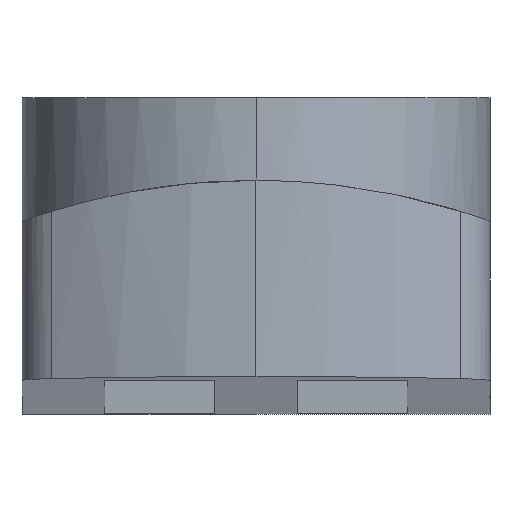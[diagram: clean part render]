
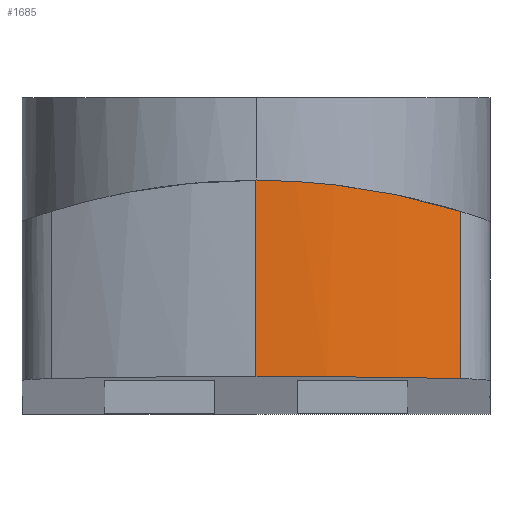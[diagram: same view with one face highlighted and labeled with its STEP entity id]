
A CAD part, left-side view. The second image highlights one B-rep face of the part: STEP entity #1685.
In plain terms, the highlighted cylindrical face has radius 16 mm (diameter 32 mm), a partial arc.
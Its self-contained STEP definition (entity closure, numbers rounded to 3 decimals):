
#19 = VERTEX_POINT ( 'NONE', #1040 ) ;
#34 = EDGE_CURVE ( 'NONE', #697, #1069, #537, .T. ) ;
#91 = ORIENTED_EDGE ( 'NONE', *, *, #34, .T. ) ;
#269 = CARTESIAN_POINT ( 'NONE',  ( -40., 0., 1.375 ) ) ;
#284 = CARTESIAN_POINT ( 'NONE',  ( -38.171, -7.429, 1.295 ) ) ;
#340 = ORIENTED_EDGE ( 'NONE', *, *, #859, .T. ) ;
#352 = CARTESIAN_POINT ( 'NONE',  ( -40., -2.6, 1.375 ) ) ;
#357 = ORIENTED_EDGE ( 'NONE', *, *, #1151, .T. ) ;
#361 = CARTESIAN_POINT ( 'NONE',  ( -38.171, -7.429, 1.295 ) ) ;
#447 = VECTOR ( 'NONE', #940, 1000. ) ;
#537 =( BOUNDED_CURVE ( )  B_SPLINE_CURVE ( 3, ( #269, #352, #1114, #361 ),
 .UNSPECIFIED., .F., .F. ) 
 B_SPLINE_CURVE_WITH_KNOTS ( ( 4, 4 ),
 ( 3.142, 3.624 ),
 .UNSPECIFIED. ) 
 CURVE ( )  GEOMETRIC_REPRESENTATION_ITEM ( )  RATIONAL_B_SPLINE_CURVE ( ( 1., 0.981, 0.981, 1. ) ) 
 REPRESENTATION_ITEM ( '' )  );
#697 = VERTEX_POINT ( 'NONE', #1508 ) ;
#721 = CARTESIAN_POINT ( 'NONE',  ( -38.759, -6.307, 7.72 ) ) ;
#732 = VECTOR ( 'NONE', #1029, 1000. ) ;
#742 = CARTESIAN_POINT ( 'NONE',  ( -38.171, -7.429, 7.371 ) ) ;
#749 = LINE ( 'NONE', #1011, #732 ) ;
#751 = VERTEX_POINT ( 'NONE', #1551 ) ;
#756 = CARTESIAN_POINT ( 'NONE',  ( -39.212, -5.124, 8.002 ) ) ;
#761 = CARTESIAN_POINT ( 'NONE',  ( -39.68, -3.249, 8.296 ) ) ;
#769 = CARTESIAN_POINT ( 'NONE',  ( -39.8, -2.604, 8.372 ) ) ;
#781 = CARTESIAN_POINT ( 'NONE',  ( -39.96, -1.31, 8.474 ) ) ;
#794 = CARTESIAN_POINT ( 'NONE',  ( -40., -0.658, 8.5 ) ) ;
#797 = LINE ( 'NONE', #932, #447 ) ;
#808 = CARTESIAN_POINT ( 'NONE',  ( -40., 0., 8.5 ) ) ;
#859 = EDGE_CURVE ( 'NONE', #19, #697, #749, .T. ) ;
#887 = AXIS2_PLACEMENT_3D ( 'NONE', #1132, #1270, #1482 ) ;
#932 = CARTESIAN_POINT ( 'NONE',  ( -38.171, -7.429, 8.5 ) ) ;
#940 = DIRECTION ( 'NONE',  ( 0., 0., -1. ) ) ;
#989 = B_SPLINE_CURVE_WITH_KNOTS ( 'NONE', 3,
 ( #742, #721, #756, #761, #769, #781, #794, #808 ),
 .UNSPECIFIED., .F., .F.,
 ( 4, 2, 2, 4 ),
 ( -0.008, -0.004, -0.002, 0. ),
 .UNSPECIFIED. ) ;
#1011 = CARTESIAN_POINT ( 'NONE',  ( -40., 0., 8.5 ) ) ;
#1029 = DIRECTION ( 'NONE',  ( 0., 0., -1. ) ) ;
#1040 = CARTESIAN_POINT ( 'NONE',  ( -40., 0., 8.5 ) ) ;
#1069 = VERTEX_POINT ( 'NONE', #284 ) ;
#1114 = CARTESIAN_POINT ( 'NONE',  ( -39.378, -5.125, 1.348 ) ) ;
#1132 = CARTESIAN_POINT ( 'NONE',  ( -24., 0., 8.5 ) ) ;
#1151 = EDGE_CURVE ( 'NONE', #751, #19, #989, .T. ) ;
#1204 = EDGE_CURVE ( 'NONE', #751, #1069, #797, .T. ) ;
#1265 = FACE_OUTER_BOUND ( 'NONE', #1291, .T. ) ;
#1270 = DIRECTION ( 'NONE',  ( 0., 0., -1. ) ) ;
#1291 = EDGE_LOOP ( 'NONE', ( #357, #340, #91, #1575 ) ) ;
#1482 = DIRECTION ( 'NONE',  ( -1., 0., 0. ) ) ;
#1508 = CARTESIAN_POINT ( 'NONE',  ( -40., 0., 1.375 ) ) ;
#1551 = CARTESIAN_POINT ( 'NONE',  ( -38.171, -7.429, 7.371 ) ) ;
#1575 = ORIENTED_EDGE ( 'NONE', *, *, #1204, .F. ) ;
#1623 = CYLINDRICAL_SURFACE ( 'NONE', #887, 16. ) ;
#1685 = ADVANCED_FACE ( 'NONE', ( #1265 ), #1623, .T. ) ;
